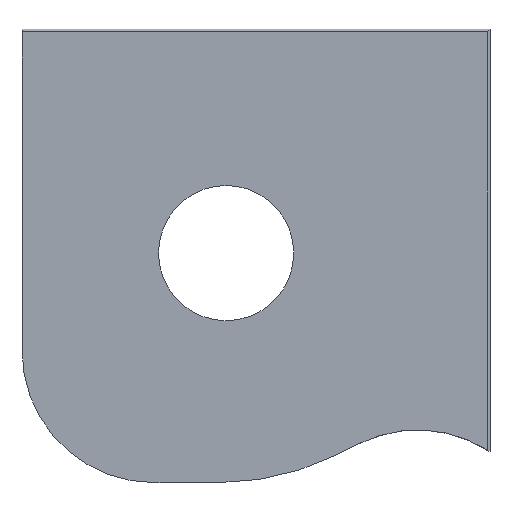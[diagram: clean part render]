
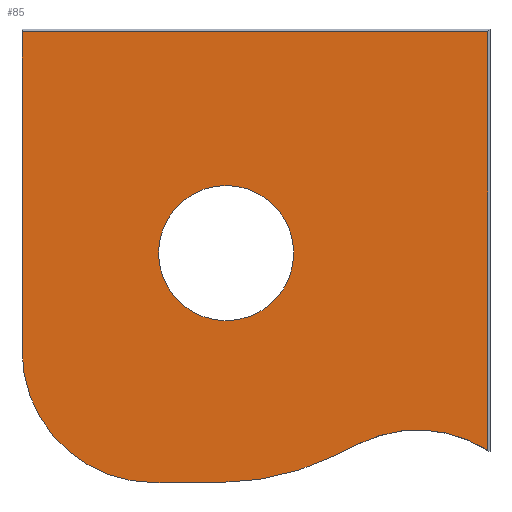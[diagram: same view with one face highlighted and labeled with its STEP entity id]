
A CAD part, top view. The second image highlights one B-rep face of the part: STEP entity #85.
In plain terms, the highlighted planar face has unit normal (0, 0, 1).
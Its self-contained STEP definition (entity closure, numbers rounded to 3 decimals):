
#85=ADVANCED_FACE('',(#180,#182),#184,.T.);
#180=FACE_BOUND('',#181,.T.);
#181=EDGE_LOOP('',(#257,#258,#259,#260,#261,#262,#263,#264));
#182=FACE_BOUND('',#183,.T.);
#183=EDGE_LOOP('',(#265));
#184=PLANE('',#185);
#185=AXIS2_PLACEMENT_3D('',#186,#187,#188);
#186=CARTESIAN_POINT('',(0.,0.,0.8));
#187=DIRECTION('',(0.,0.,1.));
#188=DIRECTION('',(1.,0.,0.));
#257=ORIENTED_EDGE('',*,*,#307,.T.);
#258=ORIENTED_EDGE('',*,*,#299,.T.);
#259=ORIENTED_EDGE('',*,*,#308,.T.);
#260=ORIENTED_EDGE('',*,*,#309,.T.);
#261=ORIENTED_EDGE('',*,*,#310,.T.);
#262=ORIENTED_EDGE('',*,*,#311,.T.);
#263=ORIENTED_EDGE('',*,*,#312,.T.);
#264=ORIENTED_EDGE('',*,*,#293,.T.);
#265=ORIENTED_EDGE('',*,*,#313,.T.);
#293=EDGE_CURVE('',#321,#319,#322,.T.);
#299=EDGE_CURVE('',#326,#331,#333,.F.);
#307=EDGE_CURVE('',#319,#326,#346,.F.);
#308=EDGE_CURVE('',#331,#347,#348,.T.);
#309=EDGE_CURVE('',#347,#349,#350,.T.);
#310=EDGE_CURVE('',#349,#351,#352,.T.);
#311=EDGE_CURVE('',#351,#353,#354,.T.);
#312=EDGE_CURVE('',#353,#321,#355,.T.);
#313=EDGE_CURVE('',#356,#356,#357,.F.);
#319=VERTEX_POINT('',#363);
#321=VERTEX_POINT('',#368);
#322=CIRCLE('',#369,40.);
#326=VERTEX_POINT('',#381);
#331=VERTEX_POINT('',#390);
#333=LINE('',#394,#395);
#346=LINE('',#426,#427);
#347=VERTEX_POINT('',#429);
#348=LINE('',#430,#431);
#349=VERTEX_POINT('',#433);
#350=CIRCLE('',#434,40.);
#351=VERTEX_POINT('',#438);
#352=LINE('',#439,#440);
#353=VERTEX_POINT('',#442);
#354=CIRCLE('',#443,80.);
#355=LINE('',#447,#448);
#356=VERTEX_POINT('',#450);
#357=CIRCLE('',#451,20.5);
#363=CARTESIAN_POINT('',(-158.837,-127.226,0.8));
#368=CARTESIAN_POINT('',(-197.894,-125.325,0.8));
#369=AXIS2_PLACEMENT_3D('',#370,#371,#372);
#370=CARTESIAN_POINT('',(-180.062,-161.13,0.8));
#371=DIRECTION('',(0.,0.,-1.));
#372=DIRECTION('',(-0.446,0.895,0.));
#381=CARTESIAN_POINT('',(-158.837,-0.442,0.8));
#390=CARTESIAN_POINT('',(-300.,-0.442,0.8));
#394=CARTESIAN_POINT('',(-300.,-0.442,0.8));
#395=VECTOR('',#396,1.);
#396=DIRECTION('',(1.,0.,0.));
#426=CARTESIAN_POINT('',(-158.837,-0.442,0.8));
#427=VECTOR('',#428,1.);
#428=DIRECTION('',(0.,-1.,0.));
#429=CARTESIAN_POINT('',(-300.,-97.073,0.8));
#430=CARTESIAN_POINT('',(-300.,-0.442,0.8));
#431=VECTOR('',#432,1.);
#432=DIRECTION('',(0.,-1.,0.));
#433=CARTESIAN_POINT('',(-260.,-137.073,0.8));
#434=AXIS2_PLACEMENT_3D('',#435,#436,#437);
#435=CARTESIAN_POINT('',(-260.,-97.073,0.8));
#436=DIRECTION('',(0.,0.,1.));
#437=DIRECTION('',(-1.,0.,0.));
#438=CARTESIAN_POINT('',(-240.302,-137.073,0.8));
#439=CARTESIAN_POINT('',(-260.,-137.073,0.8));
#440=VECTOR('',#441,1.);
#441=DIRECTION('',(1.,0.,0.));
#442=CARTESIAN_POINT('',(-204.638,-128.684,0.8));
#443=AXIS2_PLACEMENT_3D('',#444,#445,#446);
#444=CARTESIAN_POINT('',(-240.302,-57.073,0.8));
#445=DIRECTION('',(0.,0.,1.));
#446=DIRECTION('',(0.,-1.,0.));
#447=CARTESIAN_POINT('',(-204.638,-128.684,0.8));
#448=VECTOR('',#449,1.);
#449=DIRECTION('',(0.895,0.446,0.));
#450=CARTESIAN_POINT('',(-217.616,-67.49,0.8));
#451=AXIS2_PLACEMENT_3D('',#452,#453,#454);
#452=CARTESIAN_POINT('',(-238.116,-67.49,0.8));
#453=DIRECTION('',(0.,0.,1.));
#454=DIRECTION('',(1.,0.,0.));
